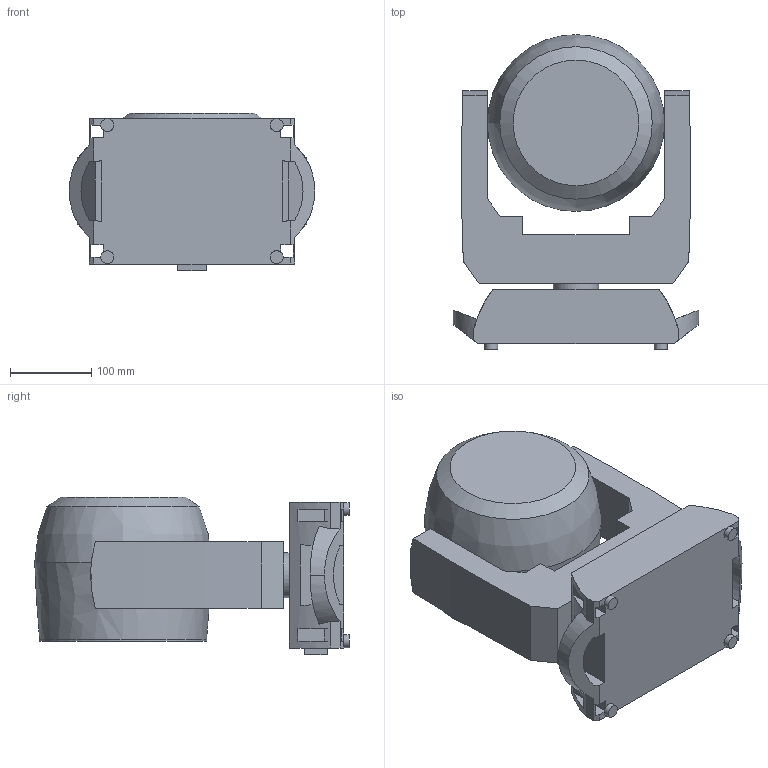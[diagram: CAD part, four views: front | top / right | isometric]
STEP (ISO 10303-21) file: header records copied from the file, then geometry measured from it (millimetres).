
FILE_DESCRIPTION(/* description */ (''),/* implementation_level */ '2;1');
FILE_NAME(/* name */ 'C:\Users\dgooch\Documents\!!CADENG\PRO\Rogue Outcast 2 Wash\Rogue Outcast 2X Wash_3D_CAD\Rogue Outcast 2X Wash_3D_90.stp',/* time_stamp */ '2022-06-14T16:47:11-04:00',/* author */ ('dgooch'),/* organization */ (''),/* preprocessor_version */ 'ST-DEVELOPER v19',/* originating_system */ 'Autodesk Inventor 2023',/* authorisation */ '');
FILE_SCHEMA (('AUTOMOTIVE_DESIGN { 1 0 10303 214 3 1 1 }'));
Length unit declared in the file: millimetre
Products named in the file (4): Rogue Outcast 2 Wash; Head; Arm; Base
Assembly tree (3 placements, depth 2):
  Rogue Outcast 2 Wash
    Head
    Arm
    Base
Bounding box: 302.56 x 388 x 194.27 mm (x, y, z)
Volume: 11259887.2 mm3; surface area: 511420 mm2
Topology: 3 solids, 3 shells, 99 faces, 271 edges, 177 vertices
Faces by surface type: plane 70, cylinder 26, bspline 2, cone 1
Full cylindrical faces by diameter (mm): 16 x4, 23.4 x4, 55.7 x2, 185 x1, 206 x1
Entity records: 3473 total; most frequent: CARTESIAN_POINT 739, ORIENTED_EDGE 542, DIRECTION 537, EDGE_CURVE 271, LINE 187, VECTOR 187, VERTEX_POINT 177, AXIS2_PLACEMENT_3D 175
